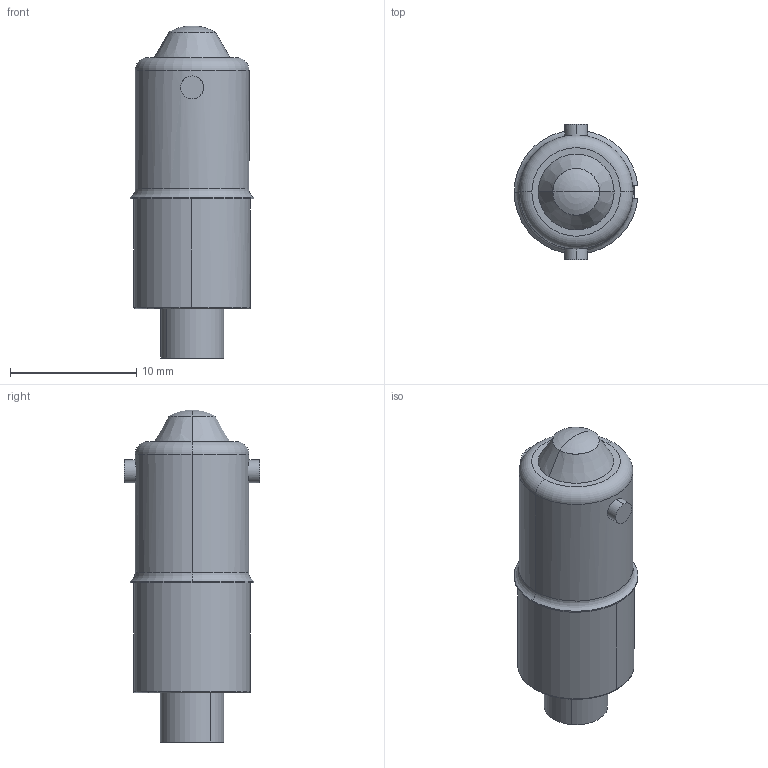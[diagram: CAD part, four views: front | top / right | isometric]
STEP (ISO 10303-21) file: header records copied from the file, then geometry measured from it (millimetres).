
FILE_DESCRIPTION (( 'STEP AP203' ), '1' );
FILE_NAME ('215 Series.STEP', '2016-08-03T09:23:30', ( '' ), ( '' ), 'SwSTEP 2.0', 'SolidWorks 2016', '' );
FILE_SCHEMA (( 'CONFIG_CONTROL_DESIGN' ));
Length unit declared in the file: millimetre
Products named in the file (6): Part3^215 Series; ba9_SLOT; 215 Series; solder-ba9; 501F-C_Short Pins; COM7902_Bivar
Assembly tree (5 placements, depth 2):
  215 Series
    ba9_SLOT
    501F-C_Short Pins
    COM7902_Bivar
    solder-ba9
    Part3^215 Series
Bounding box: 9.77 x 10.7 x 26.25 mm (x, y, z)
Volume: 917.2 mm3; surface area: 1823.7 mm2
Topology: 5 solids, 5 shells, 107 faces, 249 edges, 155 vertices
Faces by surface type: plane 39, cylinder 35, torus 23, sphere 6, cone 2, bspline 2
Entity records: 4126 total; most frequent: CARTESIAN_POINT 1021, DIRECTION 565, ORIENTED_EDGE 494, EDGE_CURVE 247, AXIS2_PLACEMENT_3D 234, VERTEX_POINT 155, CIRCLE 121, EDGE_LOOP 116
